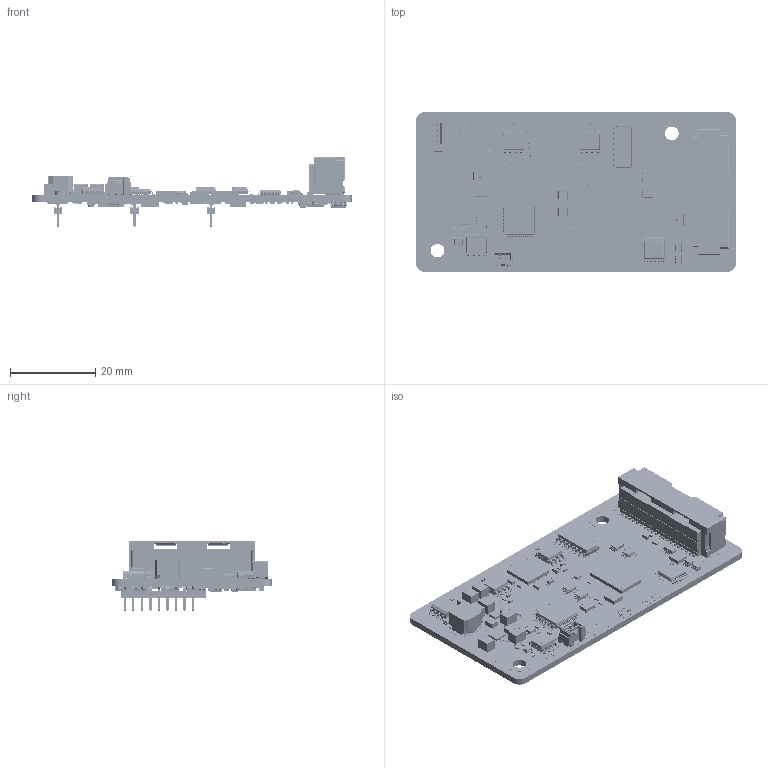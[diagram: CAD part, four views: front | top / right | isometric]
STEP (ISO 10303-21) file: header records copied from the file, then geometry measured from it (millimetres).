
FILE_DESCRIPTION(/* description */ (''),/* implementation_level */ '2;1');
FILE_NAME(/* name */ 'C:/Users/Trinamic/Desktop/Project samples/TMCM-1636/TMCM-1636-B/V11/3D/TMCM-1636-B_V11.step',/* time_stamp */ '2020-03-05T09:28:22+02:00',/* author */ (''),/* organization */ (''),/* preprocessor_version */ 'ST-DEVELOPER v18',/* originating_system */ 'Autodesk Translation Framework v8.12.0.6',/* authorisation */ '');
FILE_SCHEMA (('AUTOMOTIVE_DESIGN { 1 0 10303 214 3 1 1 }'));
Products named in the file (144): TMCM-1636-B_V11; TMCM-1636-B_V11_CopperBottom; TMCM-1636-B_V11_CopperTop; TMCM-1636-B_V11_Soldermask; TMCM-1636-B_V11_Silkscreen; TMCM-1636-B_V11_1; DesignRootModel; Submodel-CO59A2E2_part_simplified_5055680271_V_1; UsersTrinamicDesktoproject samplesTMCM-1636TMCM-1636-BV11CADTMCM-1636
-B_V11_PCB3DInput_S5055680271; 5055680271; Submodel-IC4E4FDA_part_simplified_SOT363; Submodel-ICA06E95_part_simplified_QFN37P_0; UsersTrinamicDesktoproject samplesTMCM-1636TMCM-1636-BV11CADTMCM-1636
-B_V11_PCB3DInput_SQFN-32-1EP_7x7mm_P0.65mm_EP5.46x5.46mm; QFN-32-1EP_7x7mm_P0.65mm_EP5.46x5; Submodel-RE59A03D_part_simplified_R1206A; Submodel-DIAF8C11_part_simplified_MICROSMP; Submodel-TREC42E2_part_simplified_SOT23; Submodel-COD15029_part_simplified_505448-4071_H_1; UsersTrinamicDesktoproject samplesTMCM-1636TMCM-1636-BV11CADTMCM-1636
-B_V11_PCB3DInput_S5054484071; 5054484071; Submodel-CABBED96_part_simplified_C0805I; Submodel-CABBED96_part_simplified_C0805J; Submodel-CA1180F6_part_simplified_C0603I; Submodel-DID57CAF_part_simplified_SOT23; Submodel-IC4B121A_part_simplified_QFN76P_0; UsersTrinamicDesktoproject samplesTMCM-1636TMCM-1636-BV11CADTMCM-1636
-B_V11_PCB3DInput_Sqfn76; qfn76; Submodel-CAC18C16_part_simplified_C0603; Submodel-CAA99039_part_simplified_C0805; Submodel-RE4B6147_part_simplified_R1206; Submodel-ICDDF17C_part_simplified_VSON8_ALT2; UsersTrinamicDesktoproject samplesTMCM-1636TMCM-1636-BV11CADTMCM-1636
-B_V11_PCB3DInput_STexas_S-PVSON-N8; Texas_S-PVSON-N8; Submodel-CA7A3DF5_part_simplified_C0603; Submodel-REF0DC47_part_simplified_R0402; Submodel-RE68D3D9_part_simplified_R1206; UsersTrinamicDesktoproject samplesTMCM-1636TMCM-1636-BV11CADTMCM-1636
-B_V11_PCB3DInput_Sr1206; r1206; Submodel-LEE3FFD5_part_simplified_L0402; Submodel-LE8114A5_part_simplified_L0402 ...
Assembly tree (355 placements, depth 6):
  TMCM-1636-B_V11
    TMCM-1636-B_V11_CopperBottom
    TMCM-1636-B_V11_CopperTop
    TMCM-1636-B_V11_Soldermask
    TMCM-1636-B_V11_Silkscreen
    TMCM-1636-B_V11_1
      DesignRootModel
        Submodel-INA99039_part_simplified_R0603  x6
          UsersTrinamicDesktoproject samplesTMCM-1636TMCM-1636-BV11CADTMCM-1636
-B_V11_PCB3DInput_Sr0603
            r0603
        Submodel-CAD76FF0_part_simplified_C0603  x3
          UsersTrinamicDesktoproject samplesTMCM-1636TMCM-1636-BV11CADTMCM-1636
-B_V11_PCB3DInput_Sc0603
            c0603
        Submodel-CAB2742A_part_simplified_C0402  x57
          UsersTrinamicDesktoproject samplesTMCM-1636TMCM-1636-BV11CADTMCM-1636
-B_V11_PCB3DInput_Sc0402
            c0402
        Submodel-CO59A2E2_part_simplified_5055680271_V_1
          UsersTrinamicDesktoproject samplesTMCM-1636TMCM-1636-BV11CADTMCM-1636
-B_V11_PCB3DInput_S5055680271
            5055680271
        Submodel-IC4E4FDA_part_simplified_SOT363  x2
          UsersTrinamicDesktoproject samplesTMCM-1636TMCM-1636-BV11CADTMCM-1636
-B_V11_PCB3DInput_Ssot363
            sot363
        Submodel-RE000E7E_part_simplified_R0402  x18
          UsersTrinamicDesktoproject samplesTMCM-1636TMCM-1636-BV11CADTMCM-1636
-B_V11_PCB3DInput_Sr0402
            r0402
        Submodel-CABBED96_part_simplified_C0805  x3
          UsersTrinamicDesktoproject samplesTMCM-1636TMCM-1636-BV11CADTMCM-1636
-B_V11_PCB3DInput_Sc0805
            c0805
        Submodel-ICA06E95_part_simplified_QFN37P_0
          UsersTrinamicDesktoproject samplesTMCM-1636TMCM-1636-BV11CADTMCM-1636
-B_V11_PCB3DInput_SQFN-32-1EP_7x7mm_P0.65mm_EP5.46x5.46mm
            QFN-32-1EP_7x7mm_P0.65mm_EP5.46x5
        Submodel-RE59A03D_part_simplified_R1206A
          UsersTrinamicDesktoproject samplesTMCM-1636TMCM-1636-BV11CADTMCM-1636
-B_V11_PCB3DInput_Sr1206
            r1206
        Submodel-RE7FD55C_part_simplified_R0402  x16
          UsersTrinamicDesktoproject samplesTMCM-1636TMCM-1636-BV11CADTMCM-1636
-B_V11_PCB3DInput_Sr0402
            r0402
        Submodel-ICB7F252_part_simplified_SO8  x3
          UsersTrinamicDesktoproject samplesTMCM-1636TMCM-1636-BV11CADTMCM-1636
-B_V11_PCB3DInput_Sso8
            so8
        Submodel-CA1EC8E1_part_simplified_C0402  x4
          UsersTrinamicDesktoproject samplesTMCM-1636TMCM-1636-BV11CADTMCM-1636
-B_V11_PCB3DInput_Sc0402
            c0402
        Submodel-TREC42E2_part_simplified_SOT23  x3
          UsersTrinamicDesktoproject samplesTMCM-1636TMCM-1636-BV11CADTMCM-1636
-B_V11_PCB3DInput_Ssot23
            sot23
        Submodel-DIAF8C11_part_simplified_MICROSMP
          UsersTrinamicDesktoproject samplesTMCM-1636TMCM-1636-BV11CADTMCM-1636
-B_V11_PCB3DInput_Smicrosmp
            microsmp
        Submodel-COD15029_part_simplified_505448-4071_H_1
          UsersTrinamicDesktoproject samplesTMCM-1636TMCM-1636-BV11CADTMCM-1636
-B_V11_PCB3DInput_S5054484071
            5054484071
        Submodel-CABBED96_part_simplified_C0805I
          UsersTrinamicDesktoproject samplesTMCM-1636TMCM-1636-BV11CADTMCM-1636
-B_V11_PCB3DInput_Sc0805
            c0805
        Submodel-CABBED96_part_simplified_C0805J
          UsersTrinamicDesktoproject samplesTMCM-1636TMCM-1636-BV11CADTMCM-1636
-B_V11_PCB3DInput_Sc0805
            c0805
        Submodel-CA1180F6_part_simplified_C0603I  x2
          UsersTrinamicDesktoproject samplesTMCM-1636TMCM-1636-BV11CADTMCM-1636
-B_V11_PCB3DInput_Sc0603
Bounding box: 75 x 37.5 x 16.53 mm (x, y, z)
Volume: 6781.4 mm3; surface area: 24420.5 mm2
Topology: 1670 solids, 4124 shells, 50708 faces, 138908 edges, 94366 vertices
Faces by surface type: plane 38734, cylinder 11478, bspline 436, cone 30, sphere 26, torus 4
Full cylindrical faces by diameter (mm): 0.25 x4, 0.375 x1, 0.4 x1, 0.5 x4, 0.6 x248, 1 x10, 1.1 x4, 2.8 x6, 3.2 x6, 6.35 x4, 6.45 x4
Entity records: 1378199 total; most frequent: CARTESIAN_POINT 254470, ORIENTED_EDGE 229530, DIRECTION 222023, EDGE_CURVE 118446, LINE 99483, VECTOR 99483, VERTEX_POINT 81216, AXIS2_PLACEMENT_3D 61270
